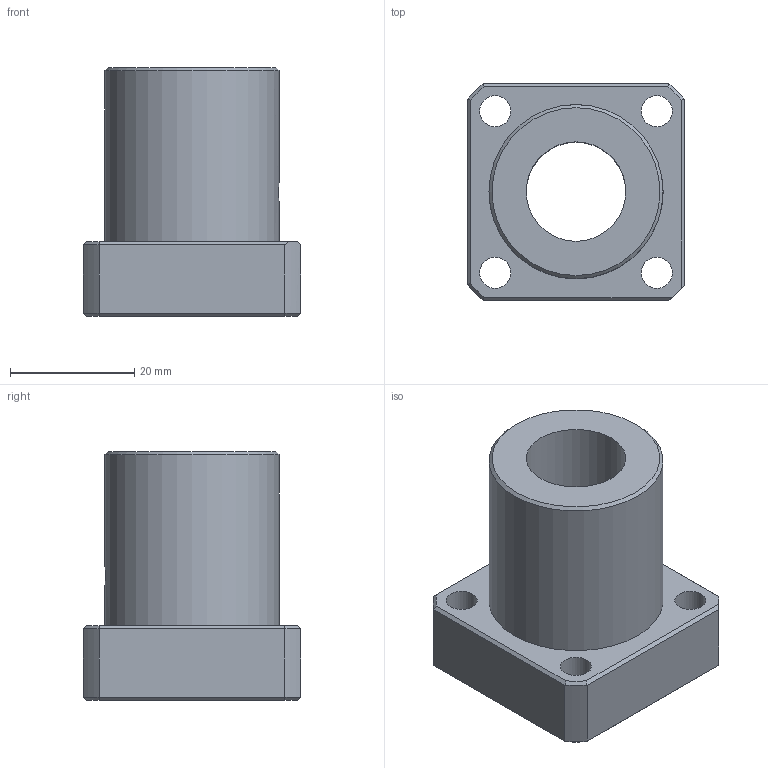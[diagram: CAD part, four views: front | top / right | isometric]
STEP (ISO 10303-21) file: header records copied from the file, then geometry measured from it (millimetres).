
FILE_DESCRIPTION((''),'2;1');
FILE_NAME('D:\製品 (図面)\カタログ用3D\シャフトブロック関連\STEP形式\SFW\SFW16.stp','2010-06-01T16:32:34',('Tsuchiya'),(''),'Autodesk Inventor 10','Autodesk Inventor 10','');
FILE_SCHEMA(('AUTOMOTIVE_DESIGN { 1 0 10303 214 1 1 1 1 }'));
Length unit declared in the file: millimetre
Products named in the file (1): SFW16
Bounding box: 35 x 35 x 40 mm (x, y, z)
Volume: 22737 mm3; surface area: 8612.3 mm2
Topology: 1 solids, 1 shells, 52 faces, 128 edges, 82 vertices
Faces by surface type: plane 29, cylinder 10, cone 9, bspline 4
Full cylindrical faces by diameter (mm): 5 x4, 16 x1, 28 x1
Entity records: 1599 total; most frequent: CARTESIAN_POINT 430, DIRECTION 224, ORIENTED_EDGE 222, EDGE_CURVE 111, AXIS2_PLACEMENT_3D 82, EDGE_LOOP 77, VERTEX_POINT 76, VECTOR 60
